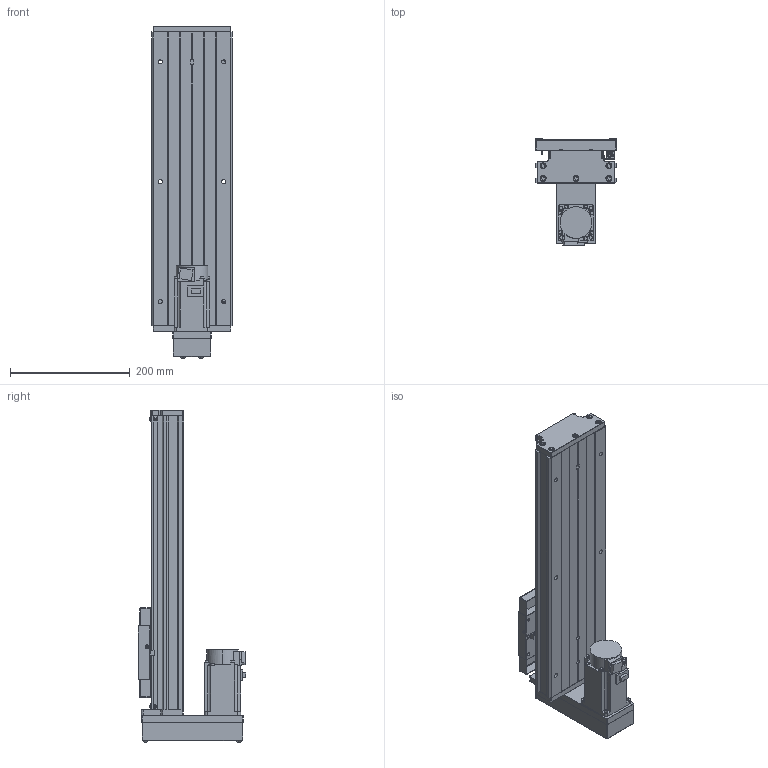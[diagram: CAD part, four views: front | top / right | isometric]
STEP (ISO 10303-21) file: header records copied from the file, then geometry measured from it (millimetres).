
FILE_DESCRIPTION (( 'STEP AP203' ), '1' );
FILE_NAME ('CTH130-300-BM-M40-C4.step', '2023-06-30T02:44:21', ( '微软用户' ), ( '微软中国' ), 'SwSTEP 2.0', 'SolidWorks 2020', '' );
FILE_SCHEMA (( 'CONFIG_CONTROL_DESIGN' ));
Length unit declared in the file: millimetre
Products named in the file (20): GBT 70.2-M3¡Á5_M3¡Á6; GTH14-001_300; CTHA60-017; す晦芛蹟隊 M3℅5; CTH130-002_GTH14-002; EE_SX911P_R; HG-KN43J-S100; GB T308.1-2013-6.35; CTHA60-016; GBT 70.2-M4¡Á35_M4¡Á35; GTH14-004; GBT 70.1-M3℅5; GTH14-015-2_CTHA86-015-2; GTH14-005; GBT77-2000 M3×3; GTH14-033; GB1155-6X6; CTH130-031; CTH130-300-BM-M40-C4; GBT70.1 M5℅16
Assembly tree (60 placements, depth 2):
  CTH130-300-BM-M40-C4
    GTH14-001_300
    CTH130-002_GTH14-002
    GB T308.1-2013-6.35  x2
    GTH14-004
    GTH14-005
    GB1155-6X6  x2
    GBT70.1 M5℅16  x10
    CTHA60-017  x3
    EE_SX911P_R  x3
    CTHA60-016  x2
    GBT 70.1-M3℅5  x6
    GBT77-2000 M3×3  x6
    CTH130-031
    GBT 70.2-M3¡Á5_M3¡Á6  x8
    す晦芛蹟隊 M3℅5  x6
    HG-KN43J-S100
    GBT 70.2-M4¡Á35_M4¡Á35  x4
    GTH14-015-2_CTHA86-015-2
    GTH14-033
Bounding box: 135 x 179.8 x 554.2 mm (x, y, z)
Volume: 3190646.5 mm3; surface area: 593420.8 mm2
Topology: 63 solids, 63 shells, 2415 faces, 5749 edges, 3553 vertices
Faces by surface type: plane 1306, cylinder 630, cone 299, torus 124, sphere 36, bspline 20
Entity records: 43308 total; most frequent: CARTESIAN_POINT 9747, DIRECTION 6282, ORIENTED_EDGE 6204, EDGE_CURVE 3102, AXIS2_PLACEMENT_3D 2132, VECTOR 2018, LINE 2018, VERTEX_POINT 1963
